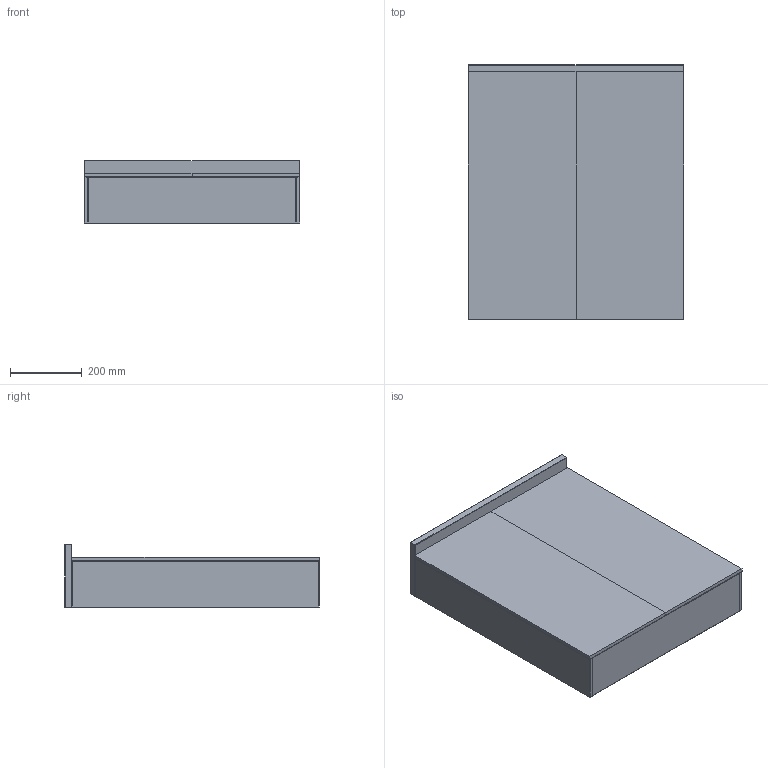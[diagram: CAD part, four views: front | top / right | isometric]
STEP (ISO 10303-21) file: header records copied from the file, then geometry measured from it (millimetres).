
FILE_DESCRIPTION (( 'STEP AP203' ), '1' );
FILE_NAME ('H2-MC-60-Shell-drawing.STEP', '2024-10-23T07:00:17', ( '' ), ( '' ), 'SwSTEP 2.0', 'SolidWorks 2024', '' );
FILE_SCHEMA (( 'CONFIG_CONTROL_DESIGN' ));
Length unit declared in the file: millimetre
Products named in the file (5): Sida-690x130x10; Botten-580x130; Spegeldörr-300x690x10; H2-MC-60-Shell-drawing; Topp-600x175x20
Assembly tree (6 placements, depth 2):
  H2-MC-60-Shell-drawing
    Topp-600x175x20
    Sida-690x130x10  x2
    Spegeldörr-300x690x10  x2
    Botten-580x130
Bounding box: 600 x 710 x 175 mm (x, y, z)
Volume: 9237674.8 mm3; surface area: 1668254.3 mm2
Topology: 6 solids, 6 shells, 116 faces, 248 edges, 112 vertices
Faces by surface type: cylinder 48, plane 36, sphere 32
Entity records: 2603 total; most frequent: DIRECTION 414, CARTESIAN_POINT 329, ORIENTED_EDGE 312, AXIS2_PLACEMENT_3D 165, EDGE_CURVE 156, EDGE_LOOP 84, LINE 84, ADVANCED_FACE 84
